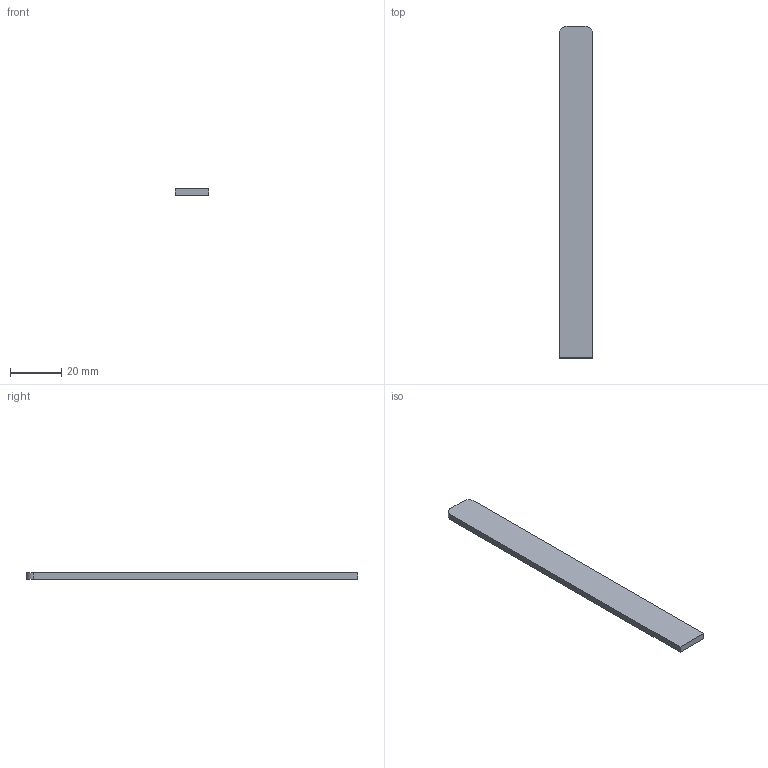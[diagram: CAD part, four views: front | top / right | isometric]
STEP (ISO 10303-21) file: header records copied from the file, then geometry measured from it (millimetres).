
FILE_DESCRIPTION(/* description */ ('','CAx-IF Rec.Pracs.---Representation and Presentation of Product Manufacturing Information (PMI)---4.0---2014-10-13'),/* implementation_level */ '2;1');
FILE_NAME(/* name */ 'Latte.step',/* time_stamp */ '2025-01-07T21:41:29+01:00',/* author */ (''),/* organization */ (''),/* preprocessor_version */ 'ST-DEVELOPER v20',/* originating_system */ 'Autodesk Translation Framework v13.20.0.188',/* authorisation */ '');
FILE_SCHEMA (('AP242_MANAGED_MODEL_BASED_3D_ENGINEERING_MIM_LF { 1 0 10303 442 1 1 4 }'));
Length unit declared in the file: millimetre
Products named in the file (1): 02_Latte
Bounding box: 13 x 130 x 2.5 mm (x, y, z)
Volume: 4215.3 mm3; surface area: 4080.8 mm2
Topology: 1 solids, 1 shells, 8 faces, 18 edges, 12 vertices
Faces by surface type: plane 6, cylinder 2
Entity records: 266 total; most frequent: DIRECTION 40, CARTESIAN_POINT 39, ORIENTED_EDGE 36, EDGE_CURVE 18, LINE 14, VECTOR 14, AXIS2_PLACEMENT_3D 13, VERTEX_POINT 12
